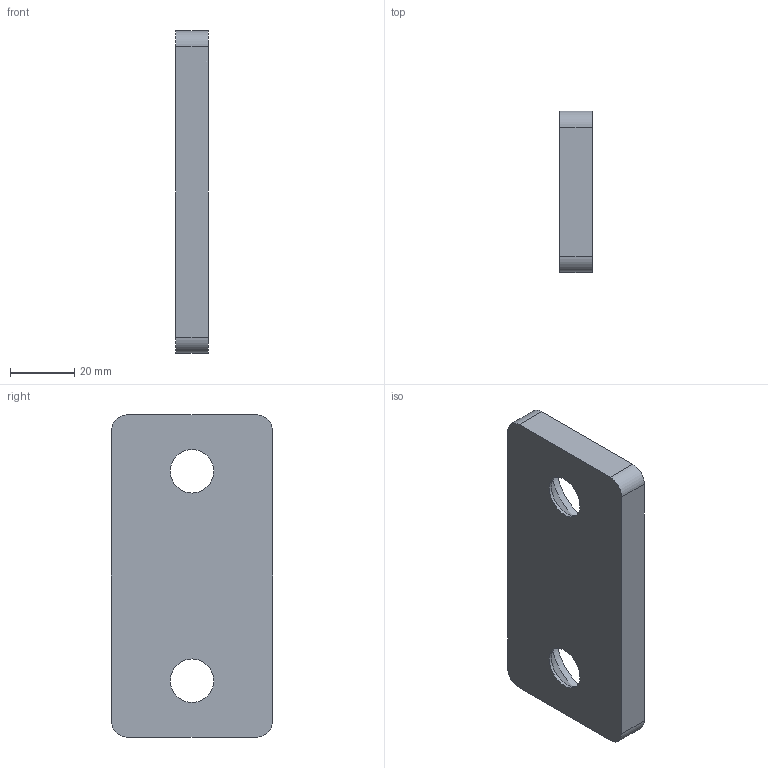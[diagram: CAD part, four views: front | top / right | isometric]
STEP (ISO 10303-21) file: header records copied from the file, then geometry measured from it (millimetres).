
FILE_DESCRIPTION(/* description */ (''),/* implementation_level */ '2;1');
FILE_NAME(/* name */ '6174551ugm000~00.stp',/* time_stamp */ '2019-11-15T06:07:04+01:00',/* author */ (''),/* organization */ (''),/* preprocessor_version */ 'ST-DEVELOPER v16',/* originating_system */ 'SIEMENS PLM Software NX 11.0',/* authorisation */ '');
FILE_SCHEMA (('AUTOMOTIVE_DESIGN { 1 0 10303 214 3 1 1 1 }'));
Length unit declared in the file: millimetre
Products named in the file (1): 6174551ugm000~00
Bounding box: 10 x 50 x 100 mm (x, y, z)
Volume: 42326.2 mm3; surface area: 13118.1 mm2
Topology: 1 solids, 1 shells, 16 faces, 40 edges, 26 vertices
Faces by surface type: cylinder 8, plane 6, cone 2
Full cylindrical faces by diameter (mm): 13.5 x2, 27.21 x2
Entity records: 476 total; most frequent: DIRECTION 82, CARTESIAN_POINT 73, ORIENTED_EDGE 64, AXIS2_PLACEMENT_3D 33, EDGE_CURVE 32, EDGE_LOOP 26, VERTEX_POINT 24, FACE_BOUND 18
